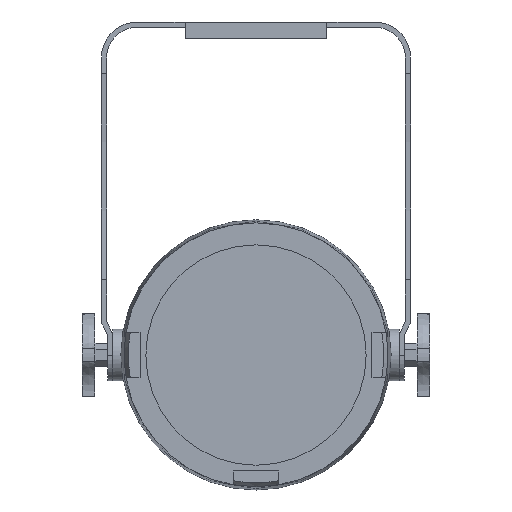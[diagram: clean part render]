
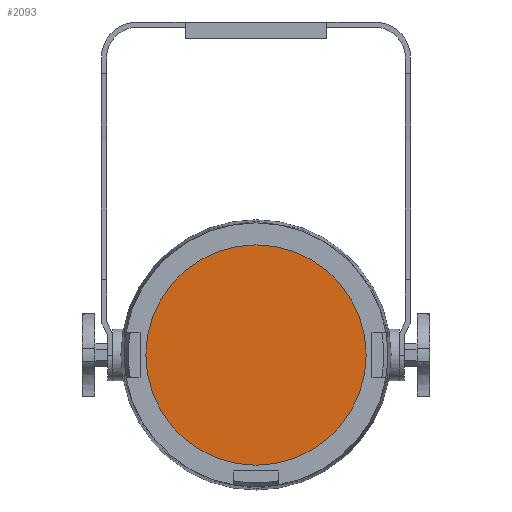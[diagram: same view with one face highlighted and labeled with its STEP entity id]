
A CAD part, front view. The second image highlights one B-rep face of the part: STEP entity #2093.
In plain terms, the highlighted planar face has unit normal (0, -1, 0).
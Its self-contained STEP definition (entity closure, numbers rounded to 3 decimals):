
#177=PLANE('',#2309);
#287=FACE_OUTER_BOUND('',#414,.T.);
#414=EDGE_LOOP('',(#1913));
#859=CIRCLE('',#2308,85.5);
#1062=VERTEX_POINT('',#3739);
#1355=EDGE_CURVE('',#1062,#1062,#859,.T.);
#1913=ORIENTED_EDGE('',*,*,#1355,.F.);
#2093=ADVANCED_FACE('',(#287),#177,.T.);
#2308=AXIS2_PLACEMENT_3D('',#3741,#2871,#2872);
#2309=AXIS2_PLACEMENT_3D('',#3742,#2873,#2874);
#2871=DIRECTION('center_axis',(0.,1.,0.));
#2872=DIRECTION('ref_axis',(1.,0.,0.));
#2873=DIRECTION('center_axis',(0.,-1.,0.));
#2874=DIRECTION('ref_axis',(1.,0.,0.));
#3739=CARTESIAN_POINT('',(-249.9,13.25,-105.07));
#3741=CARTESIAN_POINT('Origin',(-164.4,13.25,-105.07));
#3742=CARTESIAN_POINT('Origin',(-164.4,13.25,-105.07));
